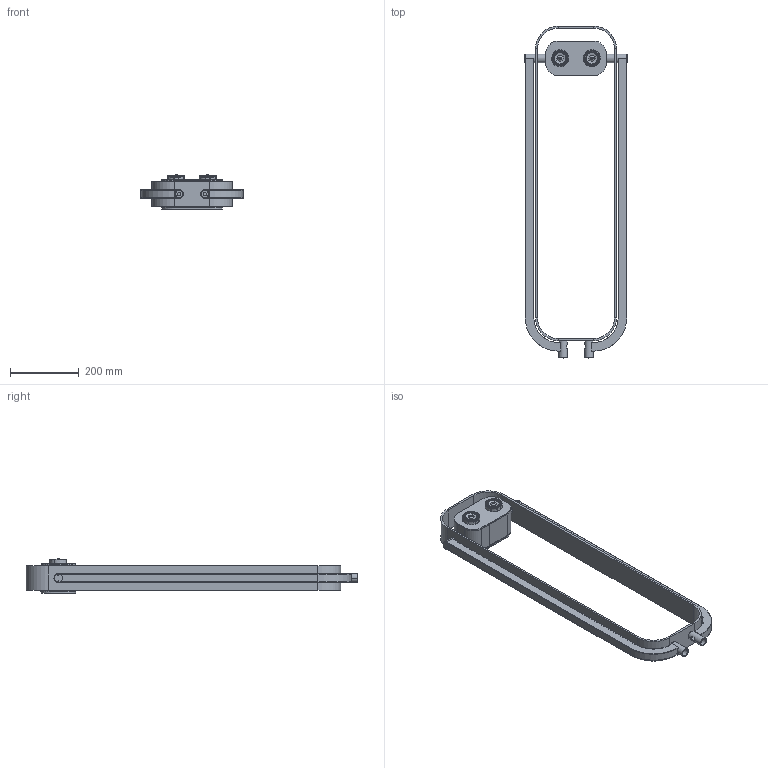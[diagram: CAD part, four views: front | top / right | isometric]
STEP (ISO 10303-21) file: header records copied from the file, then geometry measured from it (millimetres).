
FILE_DESCRIPTION (( 'STEP AP214' ), '1' );
FILE_NAME ('dina-1Ï(10)-1-4000Ê-(2õ75)-ö+ïî.STEP', '2023-07-03T06:48:02', ( '' ), ( '' ), 'SwSTEP 2.0', 'SolidWorks 2020', '' );
FILE_SCHEMA (( 'AUTOMOTIVE_DESIGN' ));
Length unit declared in the file: millimetre
Products named in the file (1): dina-1Ï(10)-1-4000Ê-(2õ75)-ö+ïî
Bounding box: 299 x 965 x 99.7 mm (x, y, z)
Volume: 1818770.2 mm3; surface area: 973747.1 mm2
Topology: 51 solids, 51 shells, 4500 faces, 10759 edges, 6396 vertices
Faces by surface type: plane 1658, bspline 910, cylinder 804, cone 778, torus 198, sphere 152
Entity records: 232133 total; most frequent: CARTESIAN_POINT 87542, ORIENTED_EDGE 21398, DIRECTION 16783, EDGE_CURVE 10699, VERTEX_POINT 6376, AXIS2_PLACEMENT_3D 6303, EDGE_LOOP 4677, UNCERTAINTY_MEASURE_WITH_UNIT 4553
